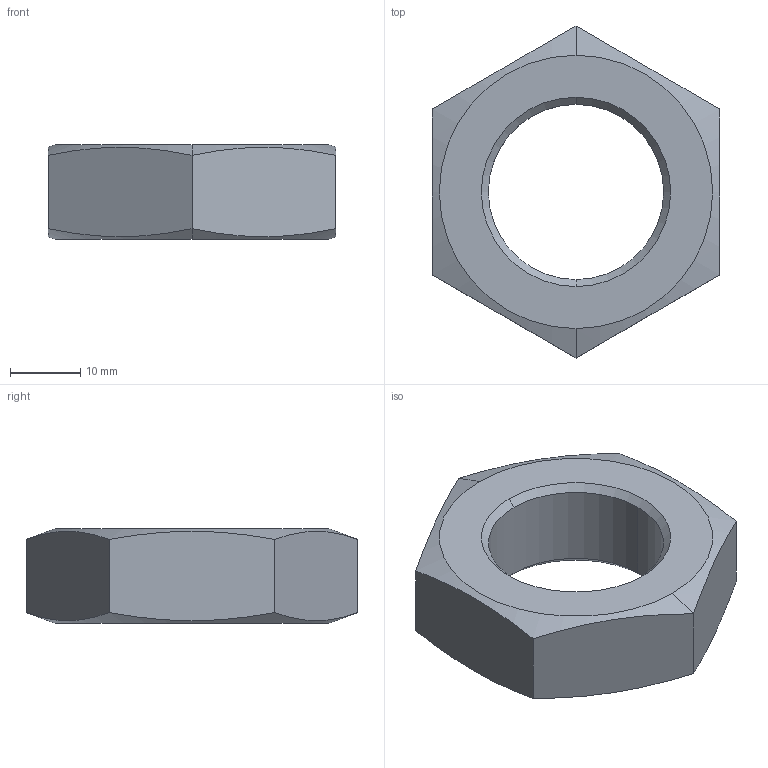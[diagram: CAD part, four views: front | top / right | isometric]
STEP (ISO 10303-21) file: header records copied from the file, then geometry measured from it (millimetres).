
FILE_DESCRIPTION((''),'2;1');
FILE_NAME('1823A00029','2024-11-18T11:32:29',('GND7HC'),(''),'CREO PARAMETRIC BY PTC INC, 2023092','CREO PARAMETRIC BY PTC INC, 2023092','');
FILE_SCHEMA(('CONFIG_CONTROL_DESIGN','SHAPE_APPEARANCE_LAYERS_GROUPS'));
Length unit declared in the file: millimetre
Products named in the file (1): 1823A00029
Bounding box: 41 x 47.34 x 13.5 mm (x, y, z)
Volume: 12706.6 mm3; surface area: 4635.8 mm2
Topology: 1 solids, 1 shells, 18 faces, 44 edges, 28 vertices
Faces by surface type: plane 8, cone 8, cylinder 2
Entity records: 980 total; most frequent: CARTESIAN_POINT 366, ORIENTED_EDGE 88, DIRECTION 84, PRESENTATION_STYLE_ASSIGNMENT 45, STYLED_ITEM 45, CURVE_STYLE 44, EDGE_CURVE 44, AXIS2_PLACEMENT_3D 34
